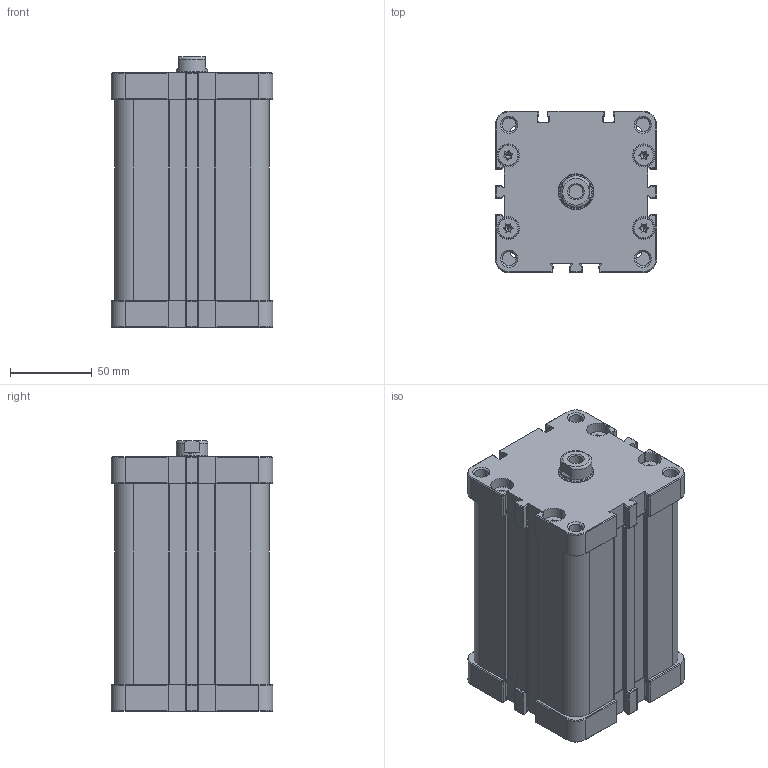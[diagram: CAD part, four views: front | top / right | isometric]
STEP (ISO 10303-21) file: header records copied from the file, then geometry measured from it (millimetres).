
FILE_DESCRIPTION (( 'STEP AP214' ), '1' );
FILE_NAME ('25_12979.STEP', '2017-01-05T09:11:58', ( '' ), ( '' ), 'SwSTEP 2.0', 'SolidWorks 2016', '' );
FILE_SCHEMA (( 'AUTOMOTIVE_DESIGN' ));
Length unit declared in the file: millimetre
Products named in the file (1): 25_12979
Bounding box: 99 x 99 x 166 mm (x, y, z)
Volume: 1266222.3 mm3; surface area: 171633.5 mm2
Topology: 5 solids, 6 shells, 781 faces, 1966 edges, 1152 vertices
Faces by surface type: plane 372, cylinder 239, cone 126, torus 28, bspline 16
Entity records: 31727 total; most frequent: CARTESIAN_POINT 4542, DIRECTION 3966, ORIENTED_EDGE 3784, EDGE_CURVE 1892, AXIS2_PLACEMENT_3D 1396, LINE 1174, VECTOR 1174, VERTEX_POINT 1152
